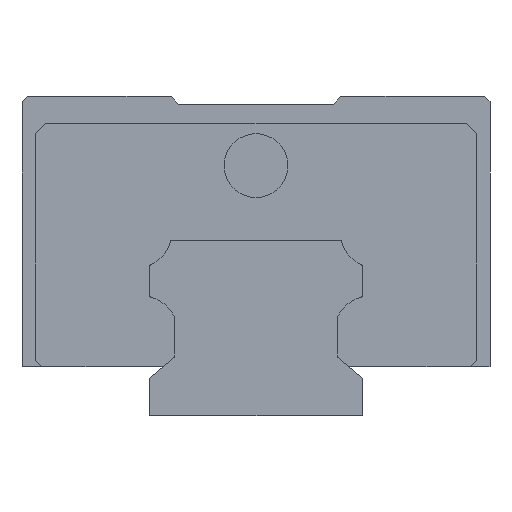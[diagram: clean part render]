
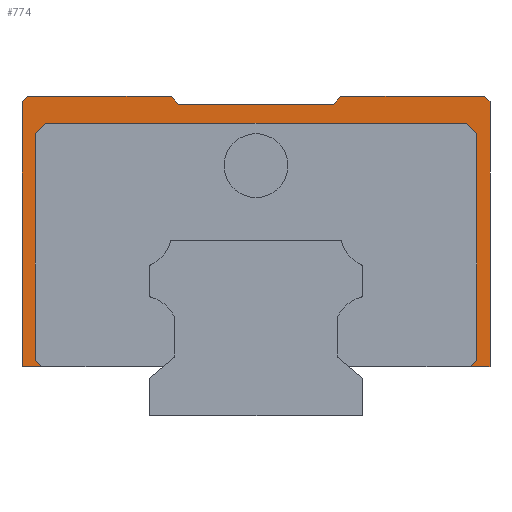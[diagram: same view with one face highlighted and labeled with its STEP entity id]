
A CAD part, left-side view. The second image highlights one B-rep face of the part: STEP entity #774.
In plain terms, the highlighted planar face has unit normal (-1, 0, 0).
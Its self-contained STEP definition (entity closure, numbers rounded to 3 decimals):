
#60 = VECTOR ( 'NONE', #4760, 1000. ) ;
#63 = ORIENTED_EDGE ( 'NONE', *, *, #5248, .F. ) ;
#91 = ORIENTED_EDGE ( 'NONE', *, *, #1332, .T. ) ;
#237 = EDGE_CURVE ( 'NONE', #4385, #4622, #449, .T. ) ;
#277 = VERTEX_POINT ( 'NONE', #5635 ) ;
#431 = VECTOR ( 'NONE', #4719, 1000. ) ;
#443 = DIRECTION ( 'NONE',  ( 1., 0., 0. ) ) ;
#449 = LINE ( 'NONE', #4179, #3303 ) ;
#474 = CARTESIAN_POINT ( 'NONE',  ( -27., -22., 27.5 ) ) ;
#484 = VERTEX_POINT ( 'NONE', #2866 ) ;
#540 = VECTOR ( 'NONE', #1830, 1000. ) ;
#544 = VECTOR ( 'NONE', #3881, 1000. ) ;
#600 = CARTESIAN_POINT ( 'NONE',  ( -27., -21.5, 30. ) ) ;
#602 = CARTESIAN_POINT ( 'NONE',  ( -27., -7.333, 29.25 ) ) ;
#626 = LINE ( 'NONE', #3583, #3832 ) ;
#657 = ORIENTED_EDGE ( 'NONE', *, *, #2123, .F. ) ;
#729 = CARTESIAN_POINT ( 'NONE',  ( -27., 7.333, 29.25 ) ) ;
#733 = VERTEX_POINT ( 'NONE', #4114 ) ;
#774 = ADVANCED_FACE ( 'NONE', ( #2369 ), #3299, .F. ) ;
#780 = DIRECTION ( 'NONE',  ( 0., -0.707, 0.707 ) ) ;
#859 = VERTEX_POINT ( 'NONE', #968 ) ;
#885 = LINE ( 'NONE', #5270, #2926 ) ;
#968 = CARTESIAN_POINT ( 'NONE',  ( -27., -20.15, 4.6 ) ) ;
#969 = LINE ( 'NONE', #2893, #60 ) ;
#978 = DIRECTION ( 'NONE',  ( 0., 0., -1. ) ) ;
#992 = VERTEX_POINT ( 'NONE', #5810 ) ;
#1021 = LINE ( 'NONE', #3480, #4694 ) ;
#1024 = LINE ( 'NONE', #1961, #1383 ) ;
#1073 = CARTESIAN_POINT ( 'NONE',  ( -27., -2.375, 49.625 ) ) ;
#1114 = VECTOR ( 'NONE', #4556, 1000. ) ;
#1251 = CARTESIAN_POINT ( 'NONE',  ( -27., -20.75, 30. ) ) ;
#1320 = VERTEX_POINT ( 'NONE', #4260 ) ;
#1322 = ORIENTED_EDGE ( 'NONE', *, *, #237, .T. ) ;
#1332 = EDGE_CURVE ( 'NONE', #4660, #4385, #5623, .T. ) ;
#1383 = VECTOR ( 'NONE', #3262, 1000. ) ;
#1415 = CARTESIAN_POINT ( 'NONE',  ( -27., 22., 29.5 ) ) ;
#1417 = CARTESIAN_POINT ( 'NONE',  ( -27., -22., 4.6 ) ) ;
#1440 = EDGE_CURVE ( 'NONE', #6035, #1881, #1979, .T. ) ;
#1488 = DIRECTION ( 'NONE',  ( 0., 0.707, 0.707 ) ) ;
#1561 = ORIENTED_EDGE ( 'NONE', *, *, #5624, .F. ) ;
#1671 = ORIENTED_EDGE ( 'NONE', *, *, #2156, .T. ) ;
#1680 = VERTEX_POINT ( 'NONE', #1415 ) ;
#1690 = EDGE_CURVE ( 'NONE', #1881, #4538, #885, .T. ) ;
#1763 = DIRECTION ( 'NONE',  ( 0., -1., 0. ) ) ;
#1778 = VECTOR ( 'NONE', #1763, 1000. ) ;
#1781 = EDGE_CURVE ( 'NONE', #4842, #3258, #626, .T. ) ;
#1798 = ORIENTED_EDGE ( 'NONE', *, *, #3955, .T. ) ;
#1830 = DIRECTION ( 'NONE',  ( 0., 0.643, -0.766 ) ) ;
#1881 = VERTEX_POINT ( 'NONE', #4145 ) ;
#1894 = ORIENTED_EDGE ( 'NONE', *, *, #1903, .F. ) ;
#1903 = EDGE_CURVE ( 'NONE', #484, #277, #6046, .T. ) ;
#1961 = CARTESIAN_POINT ( 'NONE',  ( -27., 9., 4.6 ) ) ;
#1979 = LINE ( 'NONE', #1073, #544 ) ;
#1991 = DIRECTION ( 'NONE',  ( 0., 0., 1. ) ) ;
#2039 = DIRECTION ( 'NONE',  ( 0., -0.707, -0.707 ) ) ;
#2069 = ORIENTED_EDGE ( 'NONE', *, *, #5796, .F. ) ;
#2123 = EDGE_CURVE ( 'NONE', #4322, #1680, #2486, .T. ) ;
#2156 = EDGE_CURVE ( 'NONE', #992, #1680, #969, .T. ) ;
#2158 = CARTESIAN_POINT ( 'NONE',  ( -27., 20.75, 5.2 ) ) ;
#2306 = LINE ( 'NONE', #1251, #5937 ) ;
#2323 = ORIENTED_EDGE ( 'NONE', *, *, #5564, .F. ) ;
#2369 = FACE_OUTER_BOUND ( 'NONE', #4933, .T. ) ;
#2379 = ORIENTED_EDGE ( 'NONE', *, *, #5204, .F. ) ;
#2486 = LINE ( 'NONE', #5660, #4812 ) ;
#2671 = ORIENTED_EDGE ( 'NONE', *, *, #1690, .F. ) ;
#2779 = VECTOR ( 'NONE', #1488, 1000. ) ;
#2820 = LINE ( 'NONE', #1417, #431 ) ;
#2843 = EDGE_CURVE ( 'NONE', #3258, #859, #2820, .T. ) ;
#2866 = CARTESIAN_POINT ( 'NONE',  ( -27., -20.75, 26.5 ) ) ;
#2893 = CARTESIAN_POINT ( 'NONE',  ( -27., 21.5, 30. ) ) ;
#2926 = VECTOR ( 'NONE', #978, 1000. ) ;
#2944 = VERTEX_POINT ( 'NONE', #600 ) ;
#2981 = EDGE_CURVE ( 'NONE', #4538, #733, #3537, .T. ) ;
#2996 = CARTESIAN_POINT ( 'NONE',  ( -27., 11.775, -3.775 ) ) ;
#3140 = DIRECTION ( 'NONE',  ( 0., 0.707, 0.707 ) ) ;
#3174 = DIRECTION ( 'NONE',  ( 0., 1., 0. ) ) ;
#3199 = CARTESIAN_POINT ( 'NONE',  ( -27., 22., 30. ) ) ;
#3258 = VERTEX_POINT ( 'NONE', #3592 ) ;
#3262 = DIRECTION ( 'NONE',  ( 0., 1., 0. ) ) ;
#3271 = VECTOR ( 'NONE', #780, 1000. ) ;
#3299 = PLANE ( 'NONE',  #4101 ) ;
#3303 = VECTOR ( 'NONE', #3174, 1000. ) ;
#3403 = CARTESIAN_POINT ( 'NONE',  ( -27., -20.75, 5.2 ) ) ;
#3480 = CARTESIAN_POINT ( 'NONE',  ( -27., 7.333, 29.25 ) ) ;
#3513 = ORIENTED_EDGE ( 'NONE', *, *, #1440, .F. ) ;
#3537 = LINE ( 'NONE', #2996, #5396 ) ;
#3573 = VERTEX_POINT ( 'NONE', #3403 ) ;
#3580 = LINE ( 'NONE', #3199, #1778 ) ;
#3583 = CARTESIAN_POINT ( 'NONE',  ( -27., -22., 28. ) ) ;
#3592 = CARTESIAN_POINT ( 'NONE',  ( -27., -22., 4.6 ) ) ;
#3643 = CARTESIAN_POINT ( 'NONE',  ( -27., -19.625, 27.625 ) ) ;
#3737 = LINE ( 'NONE', #5656, #2779 ) ;
#3818 = CARTESIAN_POINT ( 'NONE',  ( -27., -22., 29.5 ) ) ;
#3832 = VECTOR ( 'NONE', #5866, 1000. ) ;
#3881 = DIRECTION ( 'NONE',  ( 0., 0.707, -0.707 ) ) ;
#3942 = CARTESIAN_POINT ( 'NONE',  ( -27., -7.963, 30. ) ) ;
#3951 = ORIENTED_EDGE ( 'NONE', *, *, #2981, .F. ) ;
#3955 = EDGE_CURVE ( 'NONE', #4622, #1320, #1021, .T. ) ;
#4101 = AXIS2_PLACEMENT_3D ( 'NONE', #5693, #443, #4270 ) ;
#4114 = CARTESIAN_POINT ( 'NONE',  ( -27., 20.15, 4.6 ) ) ;
#4145 = CARTESIAN_POINT ( 'NONE',  ( -27., 20.75, 26.5 ) ) ;
#4179 = CARTESIAN_POINT ( 'NONE',  ( -27., -7.333, 29.25 ) ) ;
#4229 = VECTOR ( 'NONE', #3140, 1000. ) ;
#4260 = CARTESIAN_POINT ( 'NONE',  ( -27., 7.963, 30. ) ) ;
#4270 = DIRECTION ( 'NONE',  ( 0., 1., 0. ) ) ;
#4322 = VERTEX_POINT ( 'NONE', #5183 ) ;
#4327 = DIRECTION ( 'NONE',  ( 0., 0.643, 0.766 ) ) ;
#4334 = LINE ( 'NONE', #474, #4368 ) ;
#4347 = CARTESIAN_POINT ( 'NONE',  ( -27., -7.963, 30. ) ) ;
#4368 = VECTOR ( 'NONE', #5663, 1000. ) ;
#4385 = VERTEX_POINT ( 'NONE', #602 ) ;
#4412 = ORIENTED_EDGE ( 'NONE', *, *, #1781, .F. ) ;
#4521 = ORIENTED_EDGE ( 'NONE', *, *, #2843, .F. ) ;
#4538 = VERTEX_POINT ( 'NONE', #2158 ) ;
#4556 = DIRECTION ( 'NONE',  ( 0., -1., 0. ) ) ;
#4622 = VERTEX_POINT ( 'NONE', #729 ) ;
#4660 = VERTEX_POINT ( 'NONE', #3942 ) ;
#4672 = DIRECTION ( 'NONE',  ( 0., 0., 1. ) ) ;
#4694 = VECTOR ( 'NONE', #4327, 1000. ) ;
#4719 = DIRECTION ( 'NONE',  ( 0., 1., 0. ) ) ;
#4760 = DIRECTION ( 'NONE',  ( 0., 0.707, -0.707 ) ) ;
#4812 = VECTOR ( 'NONE', #1991, 1000. ) ;
#4842 = VERTEX_POINT ( 'NONE', #3818 ) ;
#4933 = EDGE_LOOP ( 'NONE', ( #3951, #2671, #3513, #63, #1894, #5834, #2379, #4521, #4412, #5923, #2069, #91, #1322, #1798, #2323, #1671, #657, #1561 ) ) ;
#5014 = CARTESIAN_POINT ( 'NONE',  ( -27., -33.775, 18.225 ) ) ;
#5111 = LINE ( 'NONE', #5014, #3271 ) ;
#5137 = EDGE_CURVE ( 'NONE', #3573, #484, #2306, .T. ) ;
#5183 = CARTESIAN_POINT ( 'NONE',  ( -27., 22., 4.6 ) ) ;
#5204 = EDGE_CURVE ( 'NONE', #859, #3573, #5111, .T. ) ;
#5248 = EDGE_CURVE ( 'NONE', #277, #6035, #4334, .T. ) ;
#5270 = CARTESIAN_POINT ( 'NONE',  ( -27., 20.75, 30. ) ) ;
#5319 = CARTESIAN_POINT ( 'NONE',  ( -27., 22., 30. ) ) ;
#5396 = VECTOR ( 'NONE', #2039, 1000. ) ;
#5520 = LINE ( 'NONE', #5319, #1114 ) ;
#5564 = EDGE_CURVE ( 'NONE', #992, #1320, #3580, .T. ) ;
#5577 = CARTESIAN_POINT ( 'NONE',  ( -27., 19.75, 27.5 ) ) ;
#5623 = LINE ( 'NONE', #4347, #540 ) ;
#5624 = EDGE_CURVE ( 'NONE', #733, #4322, #1024, .T. ) ;
#5629 = EDGE_CURVE ( 'NONE', #4842, #2944, #3737, .T. ) ;
#5635 = CARTESIAN_POINT ( 'NONE',  ( -27., -19.75, 27.5 ) ) ;
#5656 = CARTESIAN_POINT ( 'NONE',  ( -27., -22., 29.5 ) ) ;
#5660 = CARTESIAN_POINT ( 'NONE',  ( -27., 22., 4.6 ) ) ;
#5663 = DIRECTION ( 'NONE',  ( 0., 1., 0. ) ) ;
#5693 = CARTESIAN_POINT ( 'NONE',  ( -27., -22., 30. ) ) ;
#5796 = EDGE_CURVE ( 'NONE', #4660, #2944, #5520, .T. ) ;
#5810 = CARTESIAN_POINT ( 'NONE',  ( -27., 21.5, 30. ) ) ;
#5834 = ORIENTED_EDGE ( 'NONE', *, *, #5137, .F. ) ;
#5866 = DIRECTION ( 'NONE',  ( 0., 0., -1. ) ) ;
#5923 = ORIENTED_EDGE ( 'NONE', *, *, #5629, .T. ) ;
#5937 = VECTOR ( 'NONE', #4672, 1000. ) ;
#6035 = VERTEX_POINT ( 'NONE', #5577 ) ;
#6046 = LINE ( 'NONE', #3643, #4229 ) ;
